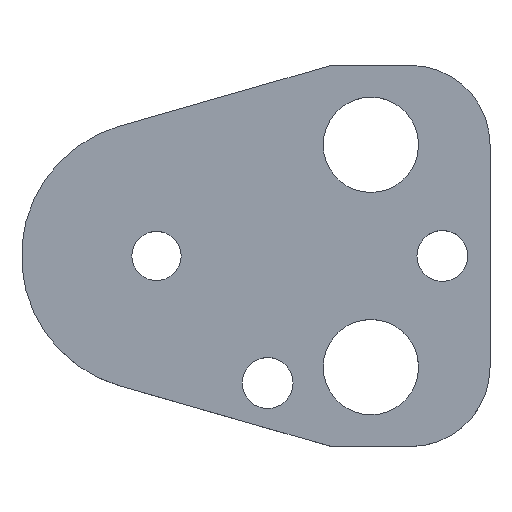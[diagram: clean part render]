
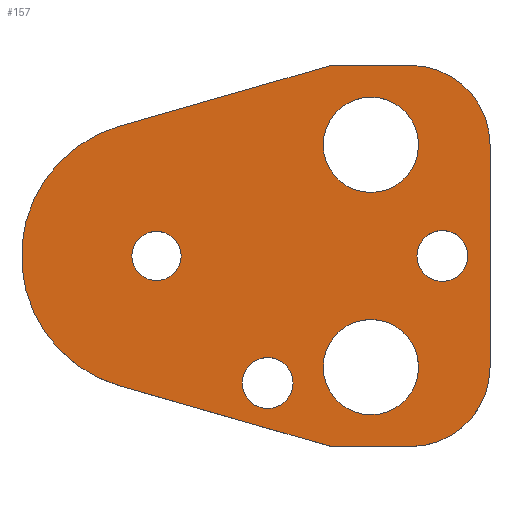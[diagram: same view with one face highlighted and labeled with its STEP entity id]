
A CAD part, top view. The second image highlights one B-rep face of the part: STEP entity #157.
In plain terms, the highlighted planar face has unit normal (0, 0, 1).
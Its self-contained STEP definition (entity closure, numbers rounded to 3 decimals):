
#103=FACE_BOUND('',#207,.T.);
#104=FACE_BOUND('',#208,.T.);
#105=FACE_BOUND('',#209,.T.);
#106=FACE_BOUND('',#210,.T.);
#107=FACE_BOUND('',#211,.T.);
#108=FACE_BOUND('',#212,.T.);
#122=CIRCLE('',#480,10.);
#124=CIRCLE('',#484,10.);
#127=CIRCLE('',#490,17.);
#138=CIRCLE('',#503,3.2);
#139=CIRCLE('',#504,3.2);
#140=CIRCLE('',#505,6.);
#141=CIRCLE('',#506,6.);
#142=CIRCLE('',#507,6.);
#143=CIRCLE('',#508,6.);
#144=CIRCLE('',#509,3.2);
#145=CIRCLE('',#510,3.2);
#146=CIRCLE('',#511,3.1);
#147=CIRCLE('',#512,3.1);
#157=ADVANCED_FACE('',(#103,#104,#105,#106,#107,#108),#174,.T.);
#174=PLANE('',#513);
#207=EDGE_LOOP('',(#273,#274,#275,#276,#277,#278,#279,#280));
#208=EDGE_LOOP('',(#281,#282));
#209=EDGE_LOOP('',(#283,#284));
#210=EDGE_LOOP('',(#285,#286));
#211=EDGE_LOOP('',(#287,#288));
#212=EDGE_LOOP('',(#289,#290));
#273=ORIENTED_EDGE('',*,*,#368,.T.);
#274=ORIENTED_EDGE('',*,*,#372,.T.);
#275=ORIENTED_EDGE('',*,*,#375,.T.);
#276=ORIENTED_EDGE('',*,*,#378,.T.);
#277=ORIENTED_EDGE('',*,*,#381,.T.);
#278=ORIENTED_EDGE('',*,*,#384,.T.);
#279=ORIENTED_EDGE('',*,*,#387,.T.);
#280=ORIENTED_EDGE('',*,*,#390,.T.);
#281=ORIENTED_EDGE('',*,*,#401,.T.);
#282=ORIENTED_EDGE('',*,*,#402,.T.);
#283=ORIENTED_EDGE('',*,*,#403,.T.);
#284=ORIENTED_EDGE('',*,*,#404,.T.);
#285=ORIENTED_EDGE('',*,*,#405,.T.);
#286=ORIENTED_EDGE('',*,*,#406,.T.);
#287=ORIENTED_EDGE('',*,*,#407,.T.);
#288=ORIENTED_EDGE('',*,*,#408,.T.);
#289=ORIENTED_EDGE('',*,*,#409,.T.);
#290=ORIENTED_EDGE('',*,*,#410,.T.);
#332=VERTEX_POINT('',#649);
#333=VERTEX_POINT('',#651);
#336=VERTEX_POINT('',#658);
#338=VERTEX_POINT('',#664);
#340=VERTEX_POINT('',#670);
#342=VERTEX_POINT('',#676);
#344=VERTEX_POINT('',#682);
#346=VERTEX_POINT('',#688);
#357=VERTEX_POINT('',#717);
#358=VERTEX_POINT('',#718);
#359=VERTEX_POINT('',#721);
#360=VERTEX_POINT('',#722);
#361=VERTEX_POINT('',#725);
#362=VERTEX_POINT('',#726);
#363=VERTEX_POINT('',#729);
#364=VERTEX_POINT('',#730);
#365=VERTEX_POINT('',#733);
#366=VERTEX_POINT('',#734);
#368=EDGE_CURVE('',#333,#332,#422,.T.);
#372=EDGE_CURVE('',#332,#336,#426,.T.);
#375=EDGE_CURVE('',#336,#338,#122,.T.);
#378=EDGE_CURVE('',#338,#340,#430,.T.);
#381=EDGE_CURVE('',#340,#342,#124,.T.);
#384=EDGE_CURVE('',#342,#344,#434,.T.);
#387=EDGE_CURVE('',#344,#346,#437,.T.);
#390=EDGE_CURVE('',#346,#333,#127,.T.);
#401=EDGE_CURVE('',#357,#358,#138,.T.);
#402=EDGE_CURVE('',#358,#357,#139,.T.);
#403=EDGE_CURVE('',#359,#360,#140,.T.);
#404=EDGE_CURVE('',#360,#359,#141,.T.);
#405=EDGE_CURVE('',#361,#362,#142,.T.);
#406=EDGE_CURVE('',#362,#361,#143,.T.);
#407=EDGE_CURVE('',#363,#364,#144,.T.);
#408=EDGE_CURVE('',#364,#363,#145,.T.);
#409=EDGE_CURVE('',#365,#366,#146,.T.);
#410=EDGE_CURVE('',#366,#365,#147,.T.);
#422=LINE('',#650,#450);
#426=LINE('',#659,#454);
#430=LINE('',#671,#458);
#434=LINE('',#683,#462);
#437=LINE('',#689,#465);
#450=VECTOR('',#527,1.);
#454=VECTOR('',#533,1.);
#458=VECTOR('',#545,1.);
#462=VECTOR('',#557,1.);
#465=VECTOR('',#562,1.);
#480=AXIS2_PLACEMENT_3D('',#665,#538,#539);
#484=AXIS2_PLACEMENT_3D('',#677,#550,#551);
#490=AXIS2_PLACEMENT_3D('',#693,#568,#569);
#503=AXIS2_PLACEMENT_3D('',#716,#594,#595);
#504=AXIS2_PLACEMENT_3D('',#719,#596,#597);
#505=AXIS2_PLACEMENT_3D('',#720,#598,#599);
#506=AXIS2_PLACEMENT_3D('',#723,#600,#601);
#507=AXIS2_PLACEMENT_3D('',#724,#602,#603);
#508=AXIS2_PLACEMENT_3D('',#727,#604,#605);
#509=AXIS2_PLACEMENT_3D('',#728,#606,#607);
#510=AXIS2_PLACEMENT_3D('',#731,#608,#609);
#511=AXIS2_PLACEMENT_3D('',#732,#610,#611);
#512=AXIS2_PLACEMENT_3D('',#735,#612,#613);
#513=AXIS2_PLACEMENT_3D('',#736,#614,#615);
#527=DIRECTION('',(0.961,-0.276,0.));
#533=DIRECTION('',(1.,0.,0.));
#538=DIRECTION('',(0.,0.,1.));
#539=DIRECTION('',(-0.707,0.707,0.));
#545=DIRECTION('',(0.,1.,0.));
#550=DIRECTION('',(0.,0.,1.));
#551=DIRECTION('',(-0.707,-0.707,0.));
#557=DIRECTION('',(-1.,0.,0.));
#562=DIRECTION('',(-0.961,-0.276,0.));
#568=DIRECTION('',(0.,0.,1.));
#569=DIRECTION('',(1.,0.,0.));
#594=DIRECTION('',(0.,0.,-1.));
#595=DIRECTION('',(-1.,0.,0.));
#596=DIRECTION('',(0.,0.,-1.));
#597=DIRECTION('',(1.,0.,0.));
#598=DIRECTION('',(0.,0.,-1.));
#599=DIRECTION('',(-1.,0.,0.));
#600=DIRECTION('',(0.,0.,-1.));
#601=DIRECTION('',(1.,0.,0.));
#602=DIRECTION('',(0.,0.,-1.));
#603=DIRECTION('',(-1.,0.,0.));
#604=DIRECTION('',(0.,0.,-1.));
#605=DIRECTION('',(1.,0.,0.));
#606=DIRECTION('',(0.,0.,-1.));
#607=DIRECTION('',(-1.,0.,0.));
#608=DIRECTION('',(0.,0.,-1.));
#609=DIRECTION('',(1.,0.,0.));
#610=DIRECTION('',(0.,0.,-1.));
#611=DIRECTION('',(-1.,0.,0.));
#612=DIRECTION('',(0.,0.,-1.));
#613=DIRECTION('',(1.,0.,0.));
#614=DIRECTION('',(0.,0.,1.));
#615=DIRECTION('',(0.961,-0.276,0.));
#649=CARTESIAN_POINT('',(22.,-24.,6.));
#650=CARTESIAN_POINT('',(22.,-24.,6.));
#651=CARTESIAN_POINT('',(-4.69,-16.34,6.));
#658=CARTESIAN_POINT('',(32.,-24.,6.));
#659=CARTESIAN_POINT('',(22.,-24.,6.));
#664=CARTESIAN_POINT('',(42.,-14.,6.));
#665=CARTESIAN_POINT('',(32.,-14.,6.));
#670=CARTESIAN_POINT('',(42.,14.,6.));
#671=CARTESIAN_POINT('',(42.,14.,6.));
#676=CARTESIAN_POINT('',(32.,24.,6.));
#677=CARTESIAN_POINT('',(32.,14.,6.));
#682=CARTESIAN_POINT('',(22.,24.,6.));
#683=CARTESIAN_POINT('',(22.,24.,6.));
#688=CARTESIAN_POINT('',(-4.69,16.34,6.));
#689=CARTESIAN_POINT('',(22.,24.,6.));
#693=CARTESIAN_POINT('',(0.,0.,6.));
#716=CARTESIAN_POINT('',(36.,0.,6.));
#717=CARTESIAN_POINT('',(36.,3.2,6.));
#718=CARTESIAN_POINT('',(36.,-3.2,6.));
#719=CARTESIAN_POINT('',(36.,0.,6.));
#720=CARTESIAN_POINT('',(27.,14.,6.));
#721=CARTESIAN_POINT('',(27.,20.,6.));
#722=CARTESIAN_POINT('',(27.,8.,6.));
#723=CARTESIAN_POINT('',(27.,14.,6.));
#724=CARTESIAN_POINT('',(27.,-14.,6.));
#725=CARTESIAN_POINT('',(27.,-8.,6.));
#726=CARTESIAN_POINT('',(27.,-20.,6.));
#727=CARTESIAN_POINT('',(27.,-14.,6.));
#728=CARTESIAN_POINT('',(14.,-16.,6.));
#729=CARTESIAN_POINT('',(14.,-12.8,6.));
#730=CARTESIAN_POINT('',(14.,-19.2,6.));
#731=CARTESIAN_POINT('',(14.,-16.,6.));
#732=CARTESIAN_POINT('',(0.,0.,6.));
#733=CARTESIAN_POINT('',(0.,3.1,6.));
#734=CARTESIAN_POINT('',(0.,-3.1,6.));
#735=CARTESIAN_POINT('',(0.,0.,6.));
#736=CARTESIAN_POINT('',(-4.69,-16.34,6.));
